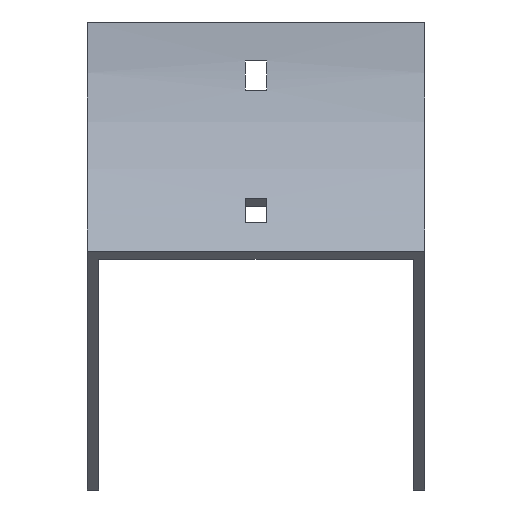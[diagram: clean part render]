
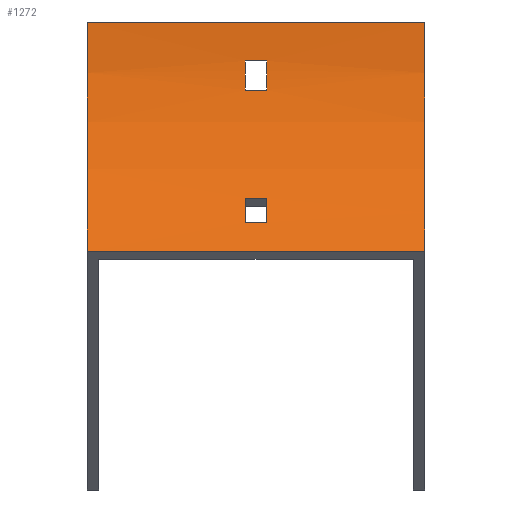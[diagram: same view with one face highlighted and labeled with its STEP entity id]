
A CAD part, front view. The second image highlights one B-rep face of the part: STEP entity #1272.
In plain terms, the highlighted cylindrical face has radius 100 mm (diameter 200 mm), a partial arc.
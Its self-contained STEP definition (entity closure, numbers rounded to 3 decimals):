
#3 = VERTEX_POINT ( 'NONE', #1621 ) ;
#10 = CARTESIAN_POINT ( 'NONE',  ( 52., -100., 0. ) ) ;
#26 = VERTEX_POINT ( 'NONE', #1592 ) ;
#30 = VERTEX_POINT ( 'NONE', #428 ) ;
#34 = DIRECTION ( 'NONE',  ( -1., 0., 0. ) ) ;
#98 = ORIENTED_EDGE ( 'NONE', *, *, #1420, .F. ) ;
#117 = VERTEX_POINT ( 'NONE', #921 ) ;
#126 = FACE_OUTER_BOUND ( 'NONE', #684, .T. ) ;
#134 = CYLINDRICAL_SURFACE ( 'NONE', #1526, 100. ) ;
#144 = AXIS2_PLACEMENT_3D ( 'NONE', #681, #1322, #945 ) ;
#146 = VECTOR ( 'NONE', #919, 1000. ) ;
#227 = CARTESIAN_POINT ( 'NONE',  ( 52., -29.289, -70.711 ) ) ;
#249 = ORIENTED_EDGE ( 'NONE', *, *, #1681, .T. ) ;
#275 = CARTESIAN_POINT ( 'NONE',  ( -3.25, -0.723, -12. ) ) ;
#276 = LINE ( 'NONE', #1226, #703 ) ;
#286 = FACE_BOUND ( 'NONE', #1386, .T. ) ;
#316 = AXIS2_PLACEMENT_3D ( 'NONE', #634, #1173, #1674 ) ;
#330 = LINE ( 'NONE', #998, #536 ) ;
#335 = DIRECTION ( 'NONE',  ( 1., 0., 0. ) ) ;
#384 = CARTESIAN_POINT ( 'NONE',  ( 3.25, -100., 0. ) ) ;
#394 = CARTESIAN_POINT ( 'NONE',  ( -3.25, -2.23, -21. ) ) ;
#395 = ORIENTED_EDGE ( 'NONE', *, *, #1578, .F. ) ;
#401 = EDGE_CURVE ( 'NONE', #752, #846, #673, .T. ) ;
#406 = CARTESIAN_POINT ( 'NONE',  ( -3.25, -21.315, -61.714 ) ) ;
#428 = CARTESIAN_POINT ( 'NONE',  ( 52., 0., 0. ) ) ;
#431 = CIRCLE ( 'NONE', #594, 100. ) ;
#487 = VERTEX_POINT ( 'NONE', #275 ) ;
#509 = AXIS2_PLACEMENT_3D ( 'NONE', #914, #1537, #1648 ) ;
#519 = CARTESIAN_POINT ( 'NONE',  ( 52., -21.315, -61.714 ) ) ;
#536 = VECTOR ( 'NONE', #734, 1000. ) ;
#537 = DIRECTION ( 'NONE',  ( -1., 0., 0. ) ) ;
#544 = DIRECTION ( 'NONE',  ( 0., 0., 1. ) ) ;
#553 = ORIENTED_EDGE ( 'NONE', *, *, #649, .T. ) ;
#566 = DIRECTION ( 'NONE',  ( -1., 0., 0. ) ) ;
#569 = VECTOR ( 'NONE', #1075, 1000. ) ;
#579 = EDGE_CURVE ( 'NONE', #683, #797, #330, .T. ) ;
#583 = CARTESIAN_POINT ( 'NONE',  ( -3.25, -100., 0. ) ) ;
#591 = VERTEX_POINT ( 'NONE', #1268 ) ;
#594 = AXIS2_PLACEMENT_3D ( 'NONE', #583, #335, #1387 ) ;
#634 = CARTESIAN_POINT ( 'NONE',  ( 3.25, -100., 0. ) ) ;
#644 = VECTOR ( 'NONE', #913, 1000. ) ;
#649 = EDGE_CURVE ( 'NONE', #1218, #1167, #1262, .T. ) ;
#673 = CIRCLE ( 'NONE', #144, 100. ) ;
#681 = CARTESIAN_POINT ( 'NONE',  ( -3.25, -100., 0. ) ) ;
#683 = VERTEX_POINT ( 'NONE', #1552 ) ;
#684 = EDGE_LOOP ( 'NONE', ( #553, #98, #1110, #249 ) ) ;
#687 = CARTESIAN_POINT ( 'NONE',  ( 52., -16.017, -54.285 ) ) ;
#703 = VECTOR ( 'NONE', #34, 1000. ) ;
#707 = AXIS2_PLACEMENT_3D ( 'NONE', #1311, #1148, #892 ) ;
#729 = EDGE_CURVE ( 'NONE', #30, #117, #732, .T. ) ;
#732 = CIRCLE ( 'NONE', #707, 100. ) ;
#734 = DIRECTION ( 'NONE',  ( -1., 0., 0. ) ) ;
#752 = VERTEX_POINT ( 'NONE', #1658 ) ;
#770 = ORIENTED_EDGE ( 'NONE', *, *, #917, .T. ) ;
#784 = VECTOR ( 'NONE', #566, 1000. ) ;
#797 = VERTEX_POINT ( 'NONE', #394 ) ;
#798 = FACE_BOUND ( 'NONE', #1654, .T. ) ;
#806 = CARTESIAN_POINT ( 'NONE',  ( -52., -29.289, -70.711 ) ) ;
#846 = VERTEX_POINT ( 'NONE', #406 ) ;
#856 = EDGE_CURVE ( 'NONE', #846, #3, #1691, .T. ) ;
#873 = ORIENTED_EDGE ( 'NONE', *, *, #1194, .T. ) ;
#886 = LINE ( 'NONE', #227, #784 ) ;
#892 = DIRECTION ( 'NONE',  ( 0., 0., 1. ) ) ;
#913 = DIRECTION ( 'NONE',  ( 1., 0., 0. ) ) ;
#914 = CARTESIAN_POINT ( 'NONE',  ( -52., -100., 0. ) ) ;
#917 = EDGE_CURVE ( 'NONE', #797, #487, #431, .T. ) ;
#919 = DIRECTION ( 'NONE',  ( 1., 0., 0. ) ) ;
#921 = CARTESIAN_POINT ( 'NONE',  ( 52., -29.289, -70.711 ) ) ;
#940 = CARTESIAN_POINT ( 'NONE',  ( 52., -0.723, -12. ) ) ;
#945 = DIRECTION ( 'NONE',  ( 0., 0., -1. ) ) ;
#963 = AXIS2_PLACEMENT_3D ( 'NONE', #384, #1566, #1188 ) ;
#998 = CARTESIAN_POINT ( 'NONE',  ( 52., -2.23, -21. ) ) ;
#1000 = ORIENTED_EDGE ( 'NONE', *, *, #579, .T. ) ;
#1063 = LINE ( 'NONE', #940, #644 ) ;
#1075 = DIRECTION ( 'NONE',  ( -1., 0., 0. ) ) ;
#1092 = ORIENTED_EDGE ( 'NONE', *, *, #856, .F. ) ;
#1110 = ORIENTED_EDGE ( 'NONE', *, *, #729, .F. ) ;
#1128 = ORIENTED_EDGE ( 'NONE', *, *, #1513, .T. ) ;
#1148 = DIRECTION ( 'NONE',  ( -1., 0., 0. ) ) ;
#1167 = VERTEX_POINT ( 'NONE', #806 ) ;
#1173 = DIRECTION ( 'NONE',  ( 1., 0., 0. ) ) ;
#1188 = DIRECTION ( 'NONE',  ( 0., 0., -1. ) ) ;
#1190 = CARTESIAN_POINT ( 'NONE',  ( -52., 0., 0. ) ) ;
#1194 = EDGE_CURVE ( 'NONE', #487, #591, #1063, .T. ) ;
#1218 = VERTEX_POINT ( 'NONE', #1190 ) ;
#1226 = CARTESIAN_POINT ( 'NONE',  ( 52., 0., 0. ) ) ;
#1248 = EDGE_CURVE ( 'NONE', #26, #752, #1306, .T. ) ;
#1262 = CIRCLE ( 'NONE', #509, 100. ) ;
#1268 = CARTESIAN_POINT ( 'NONE',  ( 3.25, -0.723, -12. ) ) ;
#1272 = ADVANCED_FACE ( 'NONE', ( #126, #286, #798 ), #134, .F. ) ;
#1306 = LINE ( 'NONE', #687, #569 ) ;
#1311 = CARTESIAN_POINT ( 'NONE',  ( 52., -100., 0. ) ) ;
#1322 = DIRECTION ( 'NONE',  ( -1., 0., 0. ) ) ;
#1324 = ORIENTED_EDGE ( 'NONE', *, *, #401, .F. ) ;
#1386 = EDGE_LOOP ( 'NONE', ( #1000, #770, #873, #1128 ) ) ;
#1387 = DIRECTION ( 'NONE',  ( 0., 0., 1. ) ) ;
#1420 = EDGE_CURVE ( 'NONE', #117, #1167, #886, .T. ) ;
#1513 = EDGE_CURVE ( 'NONE', #591, #683, #1682, .T. ) ;
#1526 = AXIS2_PLACEMENT_3D ( 'NONE', #10, #537, #544 ) ;
#1537 = DIRECTION ( 'NONE',  ( -1., 0., 0. ) ) ;
#1552 = CARTESIAN_POINT ( 'NONE',  ( 3.25, -2.23, -21. ) ) ;
#1566 = DIRECTION ( 'NONE',  ( -1., 0., 0. ) ) ;
#1578 = EDGE_CURVE ( 'NONE', #3, #26, #1603, .T. ) ;
#1592 = CARTESIAN_POINT ( 'NONE',  ( 3.25, -16.017, -54.285 ) ) ;
#1603 = CIRCLE ( 'NONE', #316, 100. ) ;
#1621 = CARTESIAN_POINT ( 'NONE',  ( 3.25, -21.315, -61.714 ) ) ;
#1648 = DIRECTION ( 'NONE',  ( 0., 0., 1. ) ) ;
#1654 = EDGE_LOOP ( 'NONE', ( #1324, #1695, #395, #1092 ) ) ;
#1658 = CARTESIAN_POINT ( 'NONE',  ( -3.25, -16.017, -54.285 ) ) ;
#1674 = DIRECTION ( 'NONE',  ( 0., 0., 1. ) ) ;
#1681 = EDGE_CURVE ( 'NONE', #30, #1218, #276, .T. ) ;
#1682 = CIRCLE ( 'NONE', #963, 100. ) ;
#1691 = LINE ( 'NONE', #519, #146 ) ;
#1695 = ORIENTED_EDGE ( 'NONE', *, *, #1248, .F. ) ;
